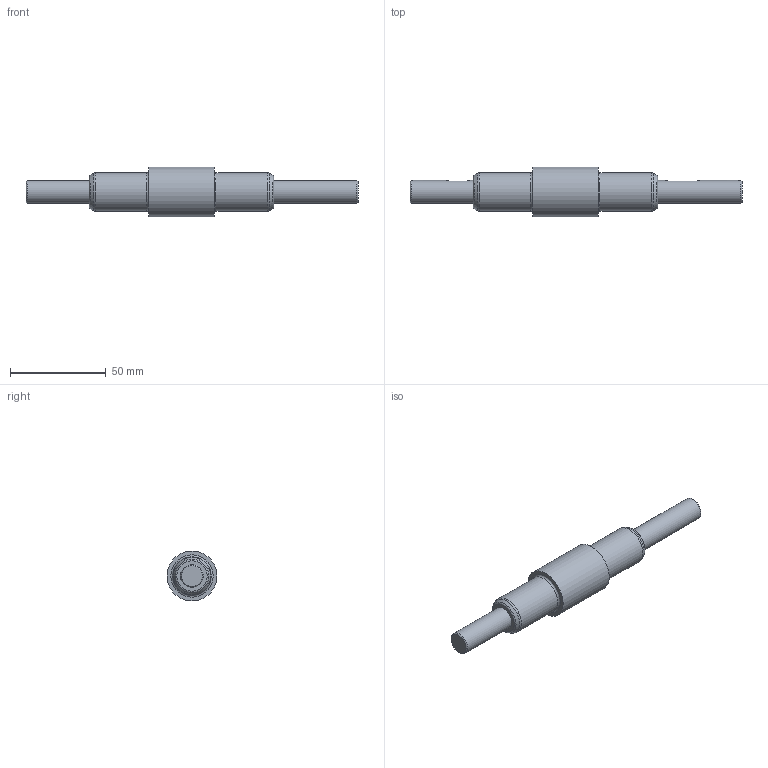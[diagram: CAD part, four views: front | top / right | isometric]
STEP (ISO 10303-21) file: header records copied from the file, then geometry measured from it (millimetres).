
FILE_DESCRIPTION(/* description */ (''),/* implementation_level */ '2;1');
FILE_NAME(/* name */ '',/* time_stamp */ '2024-04-08T11:27:58+09:00',/* author */ ('jhkim'),/* organization */ (''),/* preprocessor_version */ 'ST-DEVELOPER v20',/* originating_system */ 'Autodesk Inventor 2025',/* authorisation */ '');
FILE_SCHEMA (('AUTOMOTIVE_DESIGN { 1 0 10303 214 3 1 1 }'));
Length unit declared in the file: millimetre
Products named in the file (1): 축
Bounding box: 173 x 26 x 26 mm (x, y, z)
Volume: 45742.7 mm3; surface area: 10543.9 mm2
Topology: 1 solids, 1 shells, 31 faces, 73 edges, 50 vertices
Faces by surface type: plane 12, cylinder 9, torus 6, cone 4
Full cylindrical faces by diameter (mm): 12 x2, 20 x2, 26 x1
Entity records: 1018 total; most frequent: CARTESIAN_POINT 227, DIRECTION 169, ORIENTED_EDGE 146, EDGE_CURVE 73, AXIS2_PLACEMENT_3D 72, VERTEX_POINT 50, CIRCLE 40, EDGE_LOOP 37
